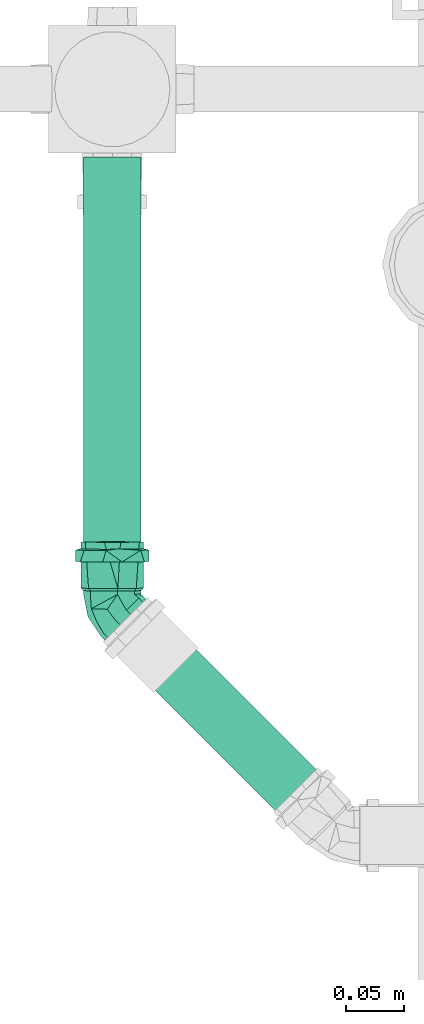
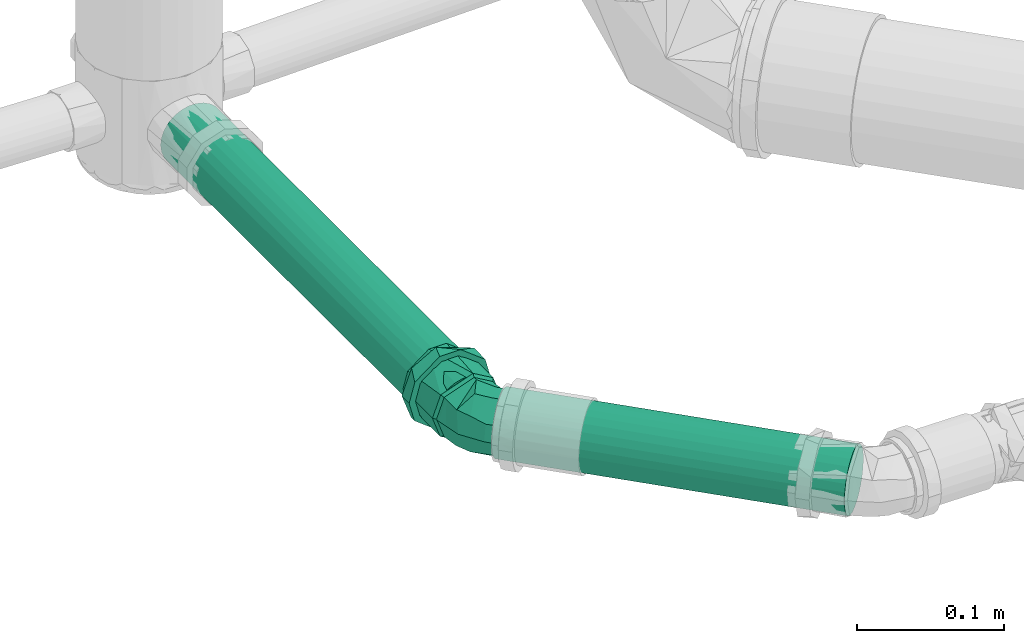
# One storey, part 280 of 589: 2 flow segments, 1 flow fitting.
"""IFC2X3 building model written with IfcOpenShell, lengths in millimetres."""

from ifc_helpers import new_model, entity, si_unit, converted_unit, derived_unit, direction, frame, frame_2d, origin, place, context, subcontext, project, spatial, circle, extrude, faceted_brep, source, transform, mapped, material, type_object, type_shapes, element, save


model = new_model("IFC2X3")

# Units and contexts
model_context = context("Model", 3, precision=0.01, world=origin(), true_north=direction((6.123031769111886e-17, 1.0)))
body_context = subcontext(model_context, "Body", "Model", "MODEL_VIEW")
ifc_project = project(units=[si_unit("LENGTHUNIT", "METRE", prefix="MILLI"), si_unit("AREAUNIT", "SQUARE_METRE"), si_unit("VOLUMEUNIT", "CUBIC_METRE"), converted_unit("PLANEANGLEUNIT", "DEGREE", entity("IfcRatioMeasure", 0.017453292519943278), si_unit("PLANEANGLEUNIT", "RADIAN"), dimensions=[0, 0, 0, 0, 0, 0, 0]), si_unit("MASSUNIT", "GRAM", prefix="KILO"), derived_unit("MASSDENSITYUNIT", [(si_unit("MASSUNIT", "GRAM", prefix="KILO"), 1), (si_unit("LENGTHUNIT", "METRE"), -3)]), derived_unit("IONCONCENTRATIONUNIT", [(si_unit("MASSUNIT", "GRAM", prefix="KILO"), 1), (si_unit("LENGTHUNIT", "METRE"), -3)]), derived_unit("MOMENTOFINERTIAUNIT", [(si_unit("LENGTHUNIT", "METRE"), 4)]), si_unit("TIMEUNIT", "SECOND"), si_unit("FREQUENCYUNIT", "HERTZ"), si_unit("THERMODYNAMICTEMPERATUREUNIT", "DEGREE_CELSIUS"), derived_unit("THERMALTRANSMITTANCEUNIT", [(si_unit("MASSUNIT", "GRAM", prefix="KILO"), 1), (si_unit("THERMODYNAMICTEMPERATUREUNIT", "KELVIN"), -1), (si_unit("TIMEUNIT", "SECOND"), -3)]), derived_unit("THERMALCONDUCTANCEUNIT", [(si_unit("MASSUNIT", "GRAM", prefix="KILO"), 1), (si_unit("THERMODYNAMICTEMPERATUREUNIT", "KELVIN"), -1), (si_unit("TIMEUNIT", "SECOND"), -3), (si_unit("LENGTHUNIT", "METRE"), 1)]), derived_unit("VOLUMETRICFLOWRATEUNIT", [(si_unit("LENGTHUNIT", "METRE"), 3), (si_unit("TIMEUNIT", "SECOND"), -1)]), derived_unit("MASSFLOWRATEUNIT", [(si_unit("MASSUNIT", "GRAM", prefix="KILO"), 1), (si_unit("TIMEUNIT", "SECOND"), -1)]), derived_unit("ROTATIONALFREQUENCYUNIT", [(si_unit("TIMEUNIT", "SECOND"), -1)]), si_unit("ELECTRICCURRENTUNIT", "AMPERE"), si_unit("ELECTRICVOLTAGEUNIT", "VOLT"), si_unit("POWERUNIT", "WATT"), si_unit("FORCEUNIT", "NEWTON", prefix="KILO"), si_unit("ILLUMINANCEUNIT", "LUX"), si_unit("LUMINOUSFLUXUNIT", "LUMEN"), si_unit("LUMINOUSINTENSITYUNIT", "CANDELA"), derived_unit("USERDEFINED", [(si_unit("MASSUNIT", "GRAM", prefix="KILO"), -1), (si_unit("LENGTHUNIT", "METRE"), -2), (si_unit("TIMEUNIT", "SECOND"), 3), (si_unit("LUMINOUSFLUXUNIT", "LUMEN"), 1)]), derived_unit("USERDEFINED", [(si_unit("MASSUNIT", "GRAM", prefix="KILO"), 1), (si_unit("TIMEUNIT", "SECOND"), -3), (si_unit("LENGTHUNIT", "METRE"), 3), (si_unit("ELECTRICCURRENTUNIT", "AMPERE"), -2)]), derived_unit("SOUNDPOWERUNIT", [(si_unit("MASSUNIT", "GRAM", prefix="KILO"), 1), (si_unit("TIMEUNIT", "SECOND"), -3), (si_unit("LENGTHUNIT", "METRE"), 2)]), derived_unit("SOUNDPRESSUREUNIT", [(si_unit("MASSUNIT", "GRAM", prefix="KILO"), 1), (si_unit("LENGTHUNIT", "METRE"), -1), (si_unit("TIMEUNIT", "SECOND"), -2)]), derived_unit("LINEARVELOCITYUNIT", [(si_unit("LENGTHUNIT", "METRE"), 1), (si_unit("TIMEUNIT", "SECOND"), -1)]), si_unit("PRESSUREUNIT", "PASCAL"), derived_unit("USERDEFINED", [(si_unit("MASSUNIT", "GRAM", prefix="KILO"), 1), (si_unit("LENGTHUNIT", "METRE"), -2), (si_unit("TIMEUNIT", "SECOND"), -2)]), derived_unit("LINEARFORCEUNIT", [(si_unit("MASSUNIT", "GRAM", prefix="KILO"), 1), (si_unit("TIMEUNIT", "SECOND"), -2)]), derived_unit("PLANARFORCEUNIT", [(si_unit("MASSUNIT", "GRAM", prefix="KILO"), 1), (si_unit("LENGTHUNIT", "METRE"), -1), (si_unit("TIMEUNIT", "SECOND"), -2)]), derived_unit("SPECIFICHEATCAPACITYUNIT", [(si_unit("THERMODYNAMICTEMPERATUREUNIT", "KELVIN"), -1), (si_unit("LENGTHUNIT", "METRE"), 2), (si_unit("TIMEUNIT", "SECOND"), -2)]), derived_unit("HEATINGVALUEUNIT", [(si_unit("LENGTHUNIT", "METRE"), 2), (si_unit("TIMEUNIT", "SECOND"), -2)]), derived_unit("VAPORPERMEABILITYUNIT", [(si_unit("LENGTHUNIT", "METRE"), -1), (si_unit("TIMEUNIT", "SECOND"), 1)]), derived_unit("DYNAMICVISCOSITYUNIT", [(si_unit("MASSUNIT", "GRAM", prefix="KILO"), 1), (si_unit("TIMEUNIT", "SECOND"), -1), (si_unit("LENGTHUNIT", "METRE"), -1)]), derived_unit("THERMALEXPANSIONCOEFFICIENTUNIT", [(si_unit("THERMODYNAMICTEMPERATUREUNIT", "KELVIN"), -1)]), derived_unit("MODULUSOFELASTICITYUNIT", [(si_unit("MASSUNIT", "GRAM", prefix="KILO"), 1), (si_unit("LENGTHUNIT", "METRE"), -1), (si_unit("TIMEUNIT", "SECOND"), -2)]), derived_unit("ISOTHERMALMOISTURECAPACITYUNIT", [(si_unit("LENGTHUNIT", "METRE"), 3), (si_unit("MASSUNIT", "GRAM", prefix="KILO"), -1)]), derived_unit("MOISTUREDIFFUSIVITYUNIT", [(si_unit("TIMEUNIT", "SECOND"), -1), (si_unit("LENGTHUNIT", "METRE"), 2)])], contexts=[model_context])

# Site, building, storey
site_placement = place(None, origin())
site = spatial("IfcSite", under=ifc_project, at=site_placement, Name="Default", CompositionType="ELEMENT")
building_placement = place(site_placement, origin())
building = spatial("IfcBuilding", under=site, at=building_placement, CompositionType="ELEMENT")
storey_placement = place(building_placement, frame((0.0, 0.0, 100.0)))
storey = spatial("IfcBuildingStorey", under=building, at=storey_placement, Name="TÉRREO", CompositionType="ELEMENT", Elevation=100.0)

# Flow segments
pipe_segment_type = type_object("IfcPipeSegmentType", Name="Tipos de tubos:PVC Esgoto Série Normal", PredefinedType="NOTDEFINED")
flow_segment_1_placement = place(storey_placement, origin())
element("IfcFlowSegment", 1, at=flow_segment_1_placement, inside=storey, type_object=pipe_segment_type, Name="Tipos de tubos:PVC Esgoto Série Normal", ObjectType="Tipos de tubos:PVC Esgoto Série Normal", context=body_context, shape_type="SweptSolid", body=[
    extrude(circle(Radius=25.0, at=frame_2d((0.0, -1.6919798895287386e-14), x_axis=(1.0, 0.0))), frame((5759.279238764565, 6913.108427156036, -236.88580114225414), z_axis=(0.0, 1.0, 0.0), x_axis=(-1.0, 0.0, 0.0)), (0.0, 0.0, 1.0), 373.6992956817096),
])
flow_segment_2_placement = place(storey_placement, origin())
element("IfcFlowSegment", 2, at=flow_segment_2_placement, inside=storey, type_object=pipe_segment_type, Name="Tipos de tubos:PVC Esgoto Série Normal", ObjectType="Tipos de tubos:PVC Esgoto Série Normal", context=body_context, shape_type="SweptSolid", body=[
    extrude(circle(Radius=25.0, at=frame_2d((0.0, -3.3837905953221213e-14), x_axis=(1.0, 0.0))), frame((5770.570407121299, 6885.849135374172, -237.20516361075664), z_axis=(0.7070714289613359, -0.7070714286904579, -0.009999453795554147), x_axis=(-0.7071067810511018, -0.7071067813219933, 0.0)), (0.0, 0.0, 1.0), 248.78783908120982),
])

# Flow fitting
ifc_material = material(Name="PVC Série Normal")
pipe_fitting_type = type_object("IfcPipeFittingType", Name="PVC Esgoto_Joelho 45_90_Rodrigo MEP:a. Série Normal", PredefinedType="NOTDEFINED", material=ifc_material)
shared_shape = source(origin(), body_context, "Body", "Brep", [
    faceted_brep([(22.923769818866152, -7.695482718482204, -12.500000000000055), (25.29203036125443, -10.063939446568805, 0.0), (22.923769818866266, -7.69548271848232, 12.499999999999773), (12.190221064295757, 3.0389551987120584, 24.148145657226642), (3.039964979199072, 12.189969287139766, 24.14814565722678), (-7.693583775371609, 22.92440720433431, 12.500000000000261), (-10.061844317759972, 25.292863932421, 0.0), (-7.6935837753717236, 22.92440720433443, -12.499999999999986), (3.039964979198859, 12.18996928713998, -24.1481456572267), (12.19022106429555, 3.0389551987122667, -24.14814565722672), (26.600877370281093, -4.0186797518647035, -12.500000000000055), (15.86732861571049, 6.715758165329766, -24.14814565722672), (6.717072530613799, 15.86677225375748, -24.1481456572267), (-4.016476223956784, 26.60121017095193, -12.499999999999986), (-6.3847367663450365, 28.9696668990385, 0.0), (-4.016476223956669, 26.601210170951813, 12.500000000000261), (6.717072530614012, 15.866772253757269, 24.14814565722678), (15.867328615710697, 6.715758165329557, 24.148145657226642), (26.60087737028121, -4.018679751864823, 12.499999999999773), (28.969137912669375, -6.387136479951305, 0.0)], [[[0, 1, 2, 3, 4, 5, 6, 7, 8, 9]], [[10, 11, 12, 13, 14, 15, 16, 17, 18, 19]], [[1, 19, 18, 2]], [[2, 18, 17, 3]], [[17, 16, 4, 3]], [[4, 16, 15, 5]], [[5, 15, 14, 6]], [[6, 14, 13, 7]], [[7, 13, 12, 8]], [[12, 11, 9, 8]], [[9, 11, 10, 0]], [[0, 10, 19, 1]]]),
    faceted_brep([(-55.96892181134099, -6.988114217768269, -26.07999730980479), (-55.96892181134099, -6.47047612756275, -24.14814565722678), (-55.96892181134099, 6.4704761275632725, -24.148145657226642), (-55.96892181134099, -23.382685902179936, -13.499999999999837), (-55.96892181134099, 6.988114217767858, -26.0799973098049), (-55.96892181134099, -21.650635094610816, -12.500000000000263), (-55.96892181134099, -25.0, 0.0), (-55.96892181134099, -27.0, 0.0), (-55.96892181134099, -21.650635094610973, 12.499999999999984), (-55.96892181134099, -23.382685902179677, 13.500000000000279), (-55.96892181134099, -6.470476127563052, 24.1481456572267), (-55.96892181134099, -6.98811421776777, 26.079997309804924), (-55.96892181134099, 6.470476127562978, 24.14814565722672), (-55.96892181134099, 6.988114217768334, 26.07999730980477), (-55.96892181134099, 21.650635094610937, 12.500000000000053), (-55.96892181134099, 23.38268590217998, 13.499999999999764), (-55.96892181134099, 27.0, 0.0), (-55.96892181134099, 25.0, 0.0), (-55.96892181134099, 23.382685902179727, -13.500000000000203), (-55.96892181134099, 21.6506350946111, -12.499999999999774), (-15.968921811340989, 21.650635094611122, -12.499999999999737), (-15.968921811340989, 25.0, 0.0), (-15.968921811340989, 6.4704761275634, -24.148145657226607), (-15.968921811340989, -6.470476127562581, -24.148145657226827), (-15.968921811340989, -21.650635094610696, -12.500000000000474), (-15.968921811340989, -25.0, 0.0), (-15.968921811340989, -21.65063509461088, 12.500000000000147), (-15.968921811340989, -6.470476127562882, 24.14814565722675), (-15.968921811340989, 6.470476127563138, 24.148145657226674), (-15.968921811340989, 21.650635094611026, 12.499999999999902), (-15.968921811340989, 27.0, 0.0), (-15.968921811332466, 20.682232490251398, 17.35641838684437), (-15.96892181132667, 4.685536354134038, 26.59033187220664), (-15.96892181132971, -20.686585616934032, 17.35122979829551), (-15.968921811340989, -27.0, 0.0), (-15.968921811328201, -8.000524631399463, 21.970780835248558), (-15.968921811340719, -20.686585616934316, -17.35122979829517), (-15.968921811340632, -4.6922062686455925, -26.589155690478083), (-15.96892181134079, 20.682232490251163, -17.356418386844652), (-15.968921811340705, 7.995013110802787, -21.972787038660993), (-13.768921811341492, -4.338459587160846, -24.620677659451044), (-13.76892181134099, 25.0, 0.0), (-13.7689218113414, 19.15424594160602, -16.065953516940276), (-13.768921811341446, 7.407893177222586, -20.343315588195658), (-13.768921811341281, -19.15021526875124, -16.070757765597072), (-13.768921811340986, -25.0, 0.0), (-13.768921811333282, -19.150215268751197, 16.07075776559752), (-13.768921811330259, -7.402789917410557, 20.34517318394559), (-13.768921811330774, 19.15424594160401, 16.065953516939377), (-13.768921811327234, 4.344635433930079, 24.61958860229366), (-10.768921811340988, 25.0, 0.0), (-10.76892181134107, 19.151286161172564, 16.069481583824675), (-10.76892181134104, 4.341396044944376, 24.62016003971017), (-10.768921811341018, -7.404832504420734, 20.344954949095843), (-10.768921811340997, -19.15106105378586, 16.069749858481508), (-10.768921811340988, -25.0, 0.0), (-10.768921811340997, -19.15106105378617, -16.069749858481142), (-10.768921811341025, -4.341051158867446, -24.62022085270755), (-10.76892181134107, 19.15128616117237, -16.069481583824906), (-10.768921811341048, 7.405117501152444, -20.344851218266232), (22.923769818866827, -7.695482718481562, -12.500000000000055), (12.190221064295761, 3.0389551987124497, -24.14814565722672), (3.039964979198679, 12.189969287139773, -24.1481456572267), (-7.69358377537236, 22.92440720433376, -12.499999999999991), (-10.06184431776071, 25.292863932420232, 0.0), (-7.6935837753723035, 22.924407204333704, 12.500000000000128), (3.039964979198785, 12.189969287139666, 24.14814565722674), (12.190221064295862, 3.038955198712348, 24.148145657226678), (22.923769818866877, -7.695482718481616, 12.499999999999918), (25.292030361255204, -10.063939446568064, 0.0), (1.706595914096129, -18.231014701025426, 15.057518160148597), (8.746957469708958, -21.11826032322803, 0.0), (12.769673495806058, -13.64882588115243, 14.852748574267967), (-3.605445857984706, -23.575173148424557, 0.0), (2.158889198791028, -4.458964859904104, 23.973885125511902), (-10.386257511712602, 25.076112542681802, 0.0), (19.219015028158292, -14.121525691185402, 0.0), (12.766185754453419, -13.645844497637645, -14.858628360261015), (2.121363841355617, -4.513538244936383, -23.96332319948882), (1.7564188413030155, -18.24350473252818, -15.023571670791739)], [[[0, 1, 2]], [[1, 0, 3]], [[2, 4, 0]], [[3, 5, 1]], [[3, 6, 5]], [[6, 3, 7]], [[8, 6, 7]], [[8, 7, 9]], [[9, 10, 8]], [[9, 11, 10]], [[10, 11, 12]], [[13, 12, 11]], [[13, 14, 12]], [[14, 13, 15]], [[16, 14, 15]], [[17, 14, 16]], [[18, 17, 16]], [[18, 19, 17]], [[19, 18, 4]], [[4, 2, 19]], [[20, 21, 17, 19]], [[22, 20, 19, 2]], [[2, 1, 23, 22]], [[24, 23, 1, 5]], [[25, 24, 5, 6]], [[26, 25, 6, 8]], [[27, 26, 8, 10]], [[10, 12, 28, 27]], [[29, 28, 12, 14]], [[21, 29, 14, 17]], [[16, 15, 30]], [[15, 31, 30]], [[31, 15, 13]], [[31, 13, 32]], [[33, 11, 9]], [[34, 9, 7]], [[11, 33, 35, 32]], [[33, 9, 34]], [[11, 32, 13]], [[7, 3, 34]], [[3, 36, 34]], [[36, 3, 0]], [[36, 0, 37]], [[38, 4, 18]], [[30, 18, 16]], [[4, 38, 39, 37]], [[38, 18, 30]], [[4, 37, 0]], [[28, 29, 21, 20, 22, 23, 24, 25, 26, 27]], [[39, 40, 37]], [[41, 42, 30]], [[30, 42, 38]], [[38, 43, 39]], [[44, 45, 36]], [[38, 42, 43]], [[36, 37, 44]], [[34, 36, 45]], [[40, 39, 43]], [[44, 37, 40]], [[45, 46, 33]], [[33, 34, 45]], [[46, 35, 33]], [[46, 47, 35]], [[47, 32, 35]], [[48, 41, 30]], [[48, 31, 49]], [[31, 48, 30]], [[32, 47, 49]], [[49, 31, 32]], [[41, 48, 50]], [[48, 51, 50]], [[51, 48, 49]], [[51, 49, 52]], [[52, 47, 53]], [[46, 54, 53]], [[46, 45, 54]], [[49, 47, 52]], [[54, 45, 55]], [[47, 46, 53]], [[45, 44, 56]], [[45, 56, 55]], [[56, 44, 57]], [[58, 59, 43]], [[44, 40, 57]], [[40, 59, 57]], [[58, 43, 42]], [[42, 50, 58]], [[50, 42, 41]], [[59, 40, 43]], [[60, 61, 62, 63, 64, 65, 66, 67, 68, 69]], [[51, 52, 66]], [[70, 71, 72]], [[54, 55, 73]], [[70, 72, 74]], [[50, 65, 75]], [[51, 65, 50]], [[52, 70, 74]], [[76, 69, 68]], [[71, 70, 73]], [[72, 76, 68]], [[73, 70, 54]], [[76, 72, 71]], [[67, 72, 68]], [[75, 65, 64]], [[70, 52, 53, 54]], [[52, 74, 66]], [[66, 65, 51]], [[67, 74, 72]], [[67, 66, 74]], [[60, 76, 77]], [[73, 55, 56]], [[78, 58, 62]], [[78, 57, 59, 58]], [[79, 73, 56]], [[57, 78, 79]], [[61, 77, 78]], [[58, 50, 63]], [[75, 64, 63]], [[57, 79, 56]], [[60, 69, 76]], [[63, 62, 58]], [[79, 78, 77]], [[61, 60, 77]], [[76, 71, 77]], [[73, 79, 71]], [[79, 77, 71]], [[62, 61, 78]], [[63, 50, 75]]]),
    faceted_brep([(-38.96892181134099, 6.9881142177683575, -26.07999730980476), (-38.96892181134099, -6.988114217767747, -26.079997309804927), (-38.96892181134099, -8.282209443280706, -30.909626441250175), (-38.96892181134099, 8.28220944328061, -30.9096264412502), (-38.96892181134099, 23.38268590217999, -13.499999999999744), (-38.96892181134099, -27.712812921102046, -16.0), (-38.96892181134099, -23.38268590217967, -13.500000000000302), (-38.96892181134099, -27.0, 0.0), (-38.96892181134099, -32.0, 0.0), (-38.96892181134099, -23.382685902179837, 13.500000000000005), (-38.96892181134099, -27.712812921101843, 16.0), (-38.96892181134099, -6.988114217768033, 26.07999730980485), (-38.96892181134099, -8.28220944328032, 30.909626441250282), (-38.96892181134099, 6.988114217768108, 26.07999730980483), (-38.96892181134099, 8.282209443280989, 30.909626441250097), (-38.96892181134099, 23.382685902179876, 13.499999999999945), (-38.96892181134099, 27.712812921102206, 16.0), (-38.96892181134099, 32.0, 0.0), (-38.96892181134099, 27.0, 0.0), (-38.96892181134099, 27.712812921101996, -16.0), (-48.96892181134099, 27.0, 0.0), (-50.26892181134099, 27.0, 0.0), (-48.96892181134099, 25.191342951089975, -6.750000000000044), (-48.96892181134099, 23.38268590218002, -13.499999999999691), (-48.96892181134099, 19.284042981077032, -16.644999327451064), (-48.96892181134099, 15.185400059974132, -19.789998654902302), (-48.96892181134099, 11.086757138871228, -22.934997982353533), (-48.96892181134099, 6.988114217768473, -26.07999730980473), (-48.96892181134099, 0.0, -26.079997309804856), (-48.96892181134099, -6.988114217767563, -26.079997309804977), (-48.96892181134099, -11.086757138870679, -22.934997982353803), (-48.96892181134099, -15.185400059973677, -19.789998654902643), (-48.96892181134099, -19.284042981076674, -16.644999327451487), (-48.96892181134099, -23.382685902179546, -13.50000000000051), (-48.96892181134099, -25.191342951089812, -6.750000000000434), (-50.26892181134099, -27.0, 0.0), (-48.96892181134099, -27.0, 0.0), (-48.96892181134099, -25.19134295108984, 6.750000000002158), (-48.96892181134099, -23.382685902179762, 13.500000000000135), (-48.96892181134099, -19.284042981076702, 16.64499932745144), (-48.96892181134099, -15.185400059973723, 19.7899986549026), (-48.96892181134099, -11.086757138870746, 22.934997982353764), (-48.96892181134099, -6.988114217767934, 26.079997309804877), (-48.96892181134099, 0.0, 26.079997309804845), (-48.96892181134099, 6.988114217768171, 26.079997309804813), (-48.96892181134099, 11.086757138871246, 22.93499798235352), (-48.96892181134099, 15.185400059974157, 19.789998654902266), (-48.96892181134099, 19.284042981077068, 16.644999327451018), (-48.96892181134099, 23.382685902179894, 13.499999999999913), (-48.96892181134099, 25.19134295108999, 6.74999999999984), (-48.96892181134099, 32.0, 0.0), (-48.96892181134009, 24.512275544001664, 20.570569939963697), (-48.96892181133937, -5.561133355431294, 31.51307341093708), (-48.96892181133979, -24.51743480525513, 20.56442050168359), (-48.96892181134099, -32.0, 0.0), (-48.96892181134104, -24.51743480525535, -20.564420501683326), (-48.968921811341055, 5.553228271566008, -31.514467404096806), (-48.968921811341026, 24.512275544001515, -20.570569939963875), (-50.26892181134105, -23.84329280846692, -8.675614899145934), (-50.26892181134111, -20.686585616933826, -17.351229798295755), (-50.26892181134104, 23.841116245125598, -8.678209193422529), (-50.26892181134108, 20.6822324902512, -17.356418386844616), (-50.26892181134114, -12.689395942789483, -21.970192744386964), (-50.26892181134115, -4.692206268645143, -26.589155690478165), (-50.268921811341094, 14.338622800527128, -19.664602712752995), (-50.26892181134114, 1.6514034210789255, -24.280971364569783), (-50.26892181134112, 7.995013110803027, -21.97278703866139), (-50.26892181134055, 23.84111624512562, 8.678209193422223), (-50.2689218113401, 20.68223249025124, 17.35641838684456), (-50.26892181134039, -23.843292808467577, 8.675614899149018), (-50.26892181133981, -20.686585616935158, 17.351229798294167), (-50.2689218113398, 12.683884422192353, 21.973375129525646), (-50.268921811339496, 4.685536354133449, 26.590331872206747), (-50.26892181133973, -14.343555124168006, 19.66100531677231), (-50.268921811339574, -1.6574941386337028, 24.2805563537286), (-50.268921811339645, -8.000524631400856, 21.97078083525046)], [[[0, 1, 2]], [[2, 3, 0]], [[4, 0, 3]], [[5, 2, 1]], [[1, 6, 5]], [[6, 7, 5]], [[8, 5, 7]], [[8, 7, 9]], [[10, 8, 9]], [[9, 11, 10]], [[11, 12, 10]], [[13, 12, 11]], [[12, 13, 14]], [[13, 15, 14]], [[16, 14, 15]], [[16, 15, 17]], [[17, 15, 18]], [[18, 4, 19]], [[17, 18, 19]], [[3, 19, 4]], [[4, 18, 20, 21, 22, 23]], [[0, 4, 23, 24, 25, 26, 27]], [[0, 27, 28, 29, 1]], [[6, 1, 29, 30, 31, 32, 33]], [[7, 6, 33, 34, 35, 36]], [[9, 7, 36, 35, 37, 38]], [[11, 9, 38, 39, 40, 41, 42]], [[11, 42, 43, 44, 13]], [[15, 13, 44, 45, 46, 47, 48]], [[18, 15, 48, 49, 21, 20]], [[50, 51, 16]], [[50, 16, 17]], [[16, 51, 14]], [[51, 52, 14]], [[12, 52, 53]], [[10, 53, 54]], [[53, 10, 12]], [[10, 54, 8]], [[52, 12, 14]], [[54, 55, 5]], [[54, 5, 8]], [[5, 55, 2]], [[55, 56, 2]], [[3, 56, 57]], [[19, 57, 50]], [[57, 19, 3]], [[19, 50, 17]], [[56, 3, 2]], [[58, 33, 59]], [[23, 60, 61]], [[32, 31, 59, 33]], [[30, 29, 62, 31]], [[24, 23, 61, 25]], [[29, 28, 63]], [[26, 25, 64]], [[65, 63, 28]], [[31, 62, 59]], [[63, 62, 29]], [[60, 22, 21]], [[34, 58, 35]], [[66, 26, 64]], [[28, 27, 65]], [[27, 66, 65]], [[27, 26, 66]], [[64, 25, 61]], [[34, 33, 58]], [[60, 23, 22]], [[67, 48, 68]], [[38, 69, 70]], [[47, 46, 68, 48]], [[45, 44, 71, 46]], [[39, 38, 70, 40]], [[44, 43, 72]], [[41, 40, 73]], [[74, 72, 43]], [[46, 71, 68]], [[72, 71, 44]], [[69, 37, 35]], [[49, 67, 21]], [[75, 41, 73]], [[43, 42, 74]], [[42, 75, 74]], [[42, 41, 75]], [[73, 40, 70]], [[49, 48, 67]], [[69, 38, 37]], [[54, 35, 58, 59, 55]], [[55, 59, 62, 63]], [[55, 63, 56]], [[57, 61, 60, 21, 50]], [[57, 56, 61]], [[56, 63, 65, 66, 64, 61]], [[50, 21, 67, 68, 51]], [[51, 68, 71, 72]], [[51, 72, 52]], [[53, 70, 69, 35, 54]], [[53, 52, 70]], [[52, 72, 74, 75, 73, 70]]]),
])
type_shapes(pipe_fitting_type, [shared_shape])
flow_fitting_placement = place(storey_placement, frame((5759.279238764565, 6897.140303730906, -237.0454823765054), z_axis=(0.004141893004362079, -0.009999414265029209, 0.9999414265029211), x_axis=(0.0, -0.9999500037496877, -0.009999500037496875)))
element("IfcFlowFitting", 3, at=flow_fitting_placement, inside=storey, type_object=pipe_fitting_type, material=ifc_material, Name="PVC Esgoto_Joelho 45_90_Rodrigo MEP:a. Série Normal", ObjectType="PVC Esgoto_Joelho 45_90_Rodrigo MEP:a. Série Normal", context=body_context, shape_type="MappedRepresentation", body=[
    mapped(shared_shape, transform((0.0, 0.0, 0.0), scale=1.0)),
])

save(model, "model.ifc")
